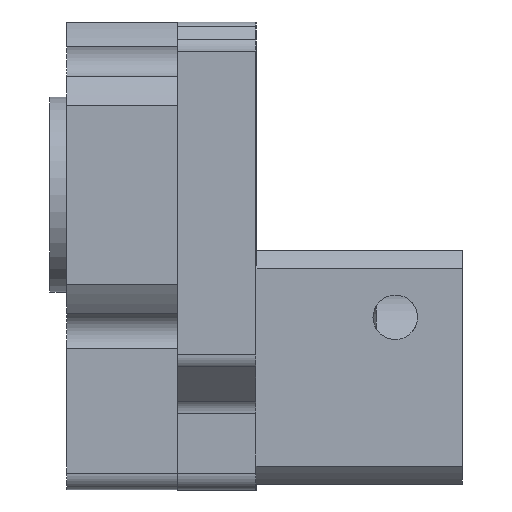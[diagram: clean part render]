
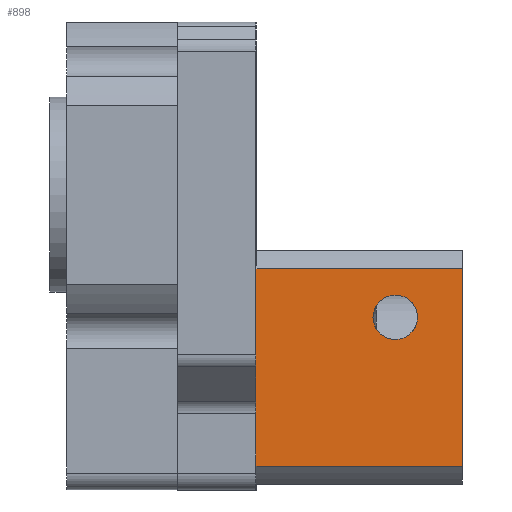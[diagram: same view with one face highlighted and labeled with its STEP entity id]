
A CAD part, left-side view. The second image highlights one B-rep face of the part: STEP entity #898.
In plain terms, the highlighted planar face has unit normal (-1, 0, 0).
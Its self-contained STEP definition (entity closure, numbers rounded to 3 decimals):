
#39 = CARTESIAN_POINT ( 'NONE',  ( -21., 0., -13.245 ) ) ;
#124 = ORIENTED_EDGE ( 'NONE', *, *, #4534, .F. ) ;
#282 = VECTOR ( 'NONE', #1678, 1000. ) ;
#413 = DIRECTION ( 'NONE',  ( 1., 0., 0. ) ) ;
#898 = ADVANCED_FACE ( 'NONE', ( #5893, #6141 ), #9794, .F. ) ;
#1084 = VECTOR ( 'NONE', #7724, 1000. ) ;
#1211 = ORIENTED_EDGE ( 'NONE', *, *, #5007, .T. ) ;
#1473 = CARTESIAN_POINT ( 'NONE',  ( -21., -37., -13.245 ) ) ;
#1678 = DIRECTION ( 'NONE',  ( 0., 0., -1. ) ) ;
#1738 = EDGE_LOOP ( 'NONE', ( #9596, #5896 ) ) ;
#1817 = ORIENTED_EDGE ( 'NONE', *, *, #6873, .F. ) ;
#2038 = CARTESIAN_POINT ( 'NONE',  ( -21., 0., 0. ) ) ;
#2452 = AXIS2_PLACEMENT_3D ( 'NONE', #5147, #413, #5941 ) ;
#2605 = LINE ( 'NONE', #5641, #282 ) ;
#2711 = VERTEX_POINT ( 'NONE', #7409 ) ;
#3057 = DIRECTION ( 'NONE',  ( 0., 1., 0. ) ) ;
#3068 = CARTESIAN_POINT ( 'NONE',  ( -21., -25., -22. ) ) ;
#3224 = VERTEX_POINT ( 'NONE', #4524 ) ;
#3843 = CARTESIAN_POINT ( 'NONE',  ( -21., -25., -22. ) ) ;
#3885 = DIRECTION ( 'NONE',  ( 0., 0., 1. ) ) ;
#3913 = VECTOR ( 'NONE', #7569, 1000. ) ;
#4195 = VERTEX_POINT ( 'NONE', #7312 ) ;
#4524 = CARTESIAN_POINT ( 'NONE',  ( -21., -37., -13.245 ) ) ;
#4534 = EDGE_CURVE ( 'NONE', #4195, #9868, #7392, .T. ) ;
#4639 = DIRECTION ( 'NONE',  ( 0., 0., 1. ) ) ;
#5007 = EDGE_CURVE ( 'NONE', #3224, #5157, #9891, .T. ) ;
#5147 = CARTESIAN_POINT ( 'NONE',  ( -21., -37., 0. ) ) ;
#5157 = VERTEX_POINT ( 'NONE', #39 ) ;
#5641 = CARTESIAN_POINT ( 'NONE',  ( -21., -37., 0. ) ) ;
#5893 = FACE_BOUND ( 'NONE', #1738, .T. ) ;
#5896 = ORIENTED_EDGE ( 'NONE', *, *, #6694, .F. ) ;
#5941 = DIRECTION ( 'NONE',  ( 0., 0., -1. ) ) ;
#5995 = VECTOR ( 'NONE', #3057, 1000. ) ;
#6141 = FACE_OUTER_BOUND ( 'NONE', #10024, .T. ) ;
#6532 = EDGE_CURVE ( 'NONE', #5157, #9868, #8067, .T. ) ;
#6694 = EDGE_CURVE ( 'NONE', #2711, #10137, #9783, .T. ) ;
#6873 = EDGE_CURVE ( 'NONE', #3224, #4195, #2605, .T. ) ;
#6954 = CARTESIAN_POINT ( 'NONE',  ( -21., -37., -48.755 ) ) ;
#7312 = CARTESIAN_POINT ( 'NONE',  ( -21., -37., -48.755 ) ) ;
#7392 = LINE ( 'NONE', #6954, #1084 ) ;
#7409 = CARTESIAN_POINT ( 'NONE',  ( -21., -25., -26. ) ) ;
#7569 = DIRECTION ( 'NONE',  ( 0., 0., -1. ) ) ;
#7724 = DIRECTION ( 'NONE',  ( 0., 1., 0. ) ) ;
#8067 = LINE ( 'NONE', #2038, #3913 ) ;
#8370 = CARTESIAN_POINT ( 'NONE',  ( -21., -25., -18. ) ) ;
#8543 = AXIS2_PLACEMENT_3D ( 'NONE', #3068, #8579, #3885 ) ;
#8579 = DIRECTION ( 'NONE',  ( -1., 0., 0. ) ) ;
#8649 = ORIENTED_EDGE ( 'NONE', *, *, #6532, .T. ) ;
#8914 = CIRCLE ( 'NONE', #9603, 4. ) ;
#9331 = DIRECTION ( 'NONE',  ( -1., 0., 0. ) ) ;
#9431 = EDGE_CURVE ( 'NONE', #10137, #2711, #8914, .T. ) ;
#9595 = CARTESIAN_POINT ( 'NONE',  ( -21., 0., -48.755 ) ) ;
#9596 = ORIENTED_EDGE ( 'NONE', *, *, #9431, .F. ) ;
#9603 = AXIS2_PLACEMENT_3D ( 'NONE', #3843, #9331, #4639 ) ;
#9783 = CIRCLE ( 'NONE', #8543, 4. ) ;
#9794 = PLANE ( 'NONE',  #2452 ) ;
#9868 = VERTEX_POINT ( 'NONE', #9595 ) ;
#9891 = LINE ( 'NONE', #1473, #5995 ) ;
#10024 = EDGE_LOOP ( 'NONE', ( #8649, #124, #1817, #1211 ) ) ;
#10137 = VERTEX_POINT ( 'NONE', #8370 ) ;
